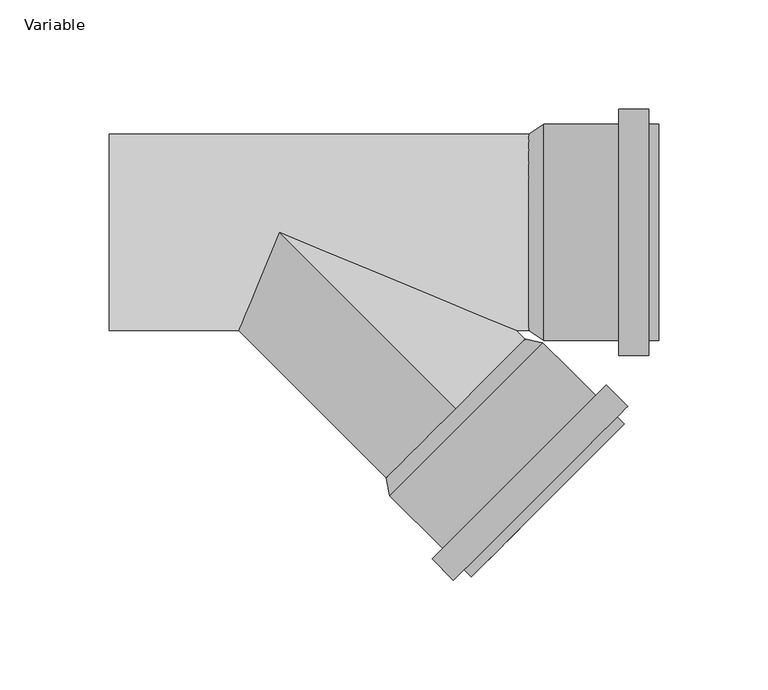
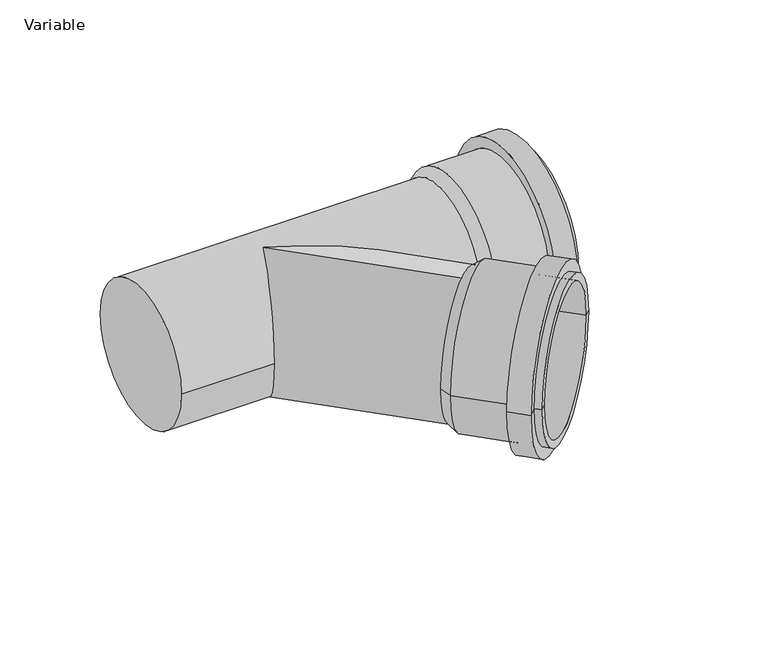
"""IFC4 building model written with IfcOpenShell, lengths in millimetres: pipe fitting geometry, AliaxisFR_Friaphon_Branch_FR : Variable."""

import ifcopenshell
import ifcopenshell.guid

model = None  # the IFC model being written
_history = None  # IfcOwnerHistory: only IFC2X3 demands one
_inside = {}  # id of a spatial element -> (the spatial element, [elements in it])
_under = {}  # id of a project, library or spatial element -> (it, [spatial elements below it])
_declared = {}  # id of a project -> (the project, [libraries it declares])
_typed = {}  # id of a type object -> (the type object, [elements of that type])
_made_of = {}  # id of a material, layer set ... -> (it, [elements and type objects made of it])


def new_model(schema):
    """Start an empty IFC model of exactly this schema.

    Asked for "IFC4X3", IfcOpenShell would pick the latest addendum, in which some entities
    have other attributes; the version numbers below select the first issue.
    IFC2X3 requires an IfcOwnerHistory on every rooted entity: one is made here for all.
    """
    global model, _history
    if schema == "IFC4X3":
        model = ifcopenshell.file(schema_version=(4, 3, 0, 0))
    else:
        model = ifcopenshell.file(schema=schema)
    _inside.clear()
    _under.clear()
    _declared.clear()
    _typed.clear()
    _made_of.clear()
    _history = None
    if model.schema == "IFC2X3":
        org = make("IfcOrganization", Name="unknown")
        user = make(
            "IfcPersonAndOrganization",
            ThePerson=make("IfcPerson", FamilyName="unknown"),
            TheOrganization=org,
        )
        app = make(
            "IfcApplication",
            ApplicationDeveloper=org,
            Version="unknown",
            ApplicationFullName="unknown",
            ApplicationIdentifier="unknown",
        )
        _history = make(
            "IfcOwnerHistory",
            OwningUser=user,
            OwningApplication=app,
            ChangeAction="ADDED",
            CreationDate=0,
        )
    return model


def make(cls, **values):
    """One entity of the class cls with the attributes given. An attribute that is None is left unset."""
    return model.create_entity(
        cls, **{name: value for name, value in values.items() if value is not None}
    )


def rooted(cls, **values):
    """An entity with a GlobalId (a new one), such as an element, a storey or a relation."""
    return make(cls, GlobalId=ifcopenshell.guid.new(), OwnerHistory=_history, **values)


def si_unit(unit_type, name, prefix=None):
    """IfcSIUnit, for example si_unit("LENGTHUNIT", "METRE", prefix="MILLI")."""
    return make("IfcSIUnit", UnitType=unit_type, Prefix=prefix, Name=name)


def assignment(units):
    """IfcUnitAssignment: the units of a project."""
    return None if units is None else make("IfcUnitAssignment", Units=units)


def point(xyz):
    """IfcCartesianPoint."""
    return None if xyz is None else make("IfcCartesianPoint", Coordinates=xyz)


def direction(xyz):
    """IfcDirection."""
    return None if xyz is None else make("IfcDirection", DirectionRatios=xyz)


def frame(location, z_axis=None, x_axis=None):
    """IfcAxis2Placement3D, a coordinate frame: its origin and axes. An axis left out is left unset."""
    return make(
        "IfcAxis2Placement3D",
        Location=point(location),
        Axis=direction(z_axis),
        RefDirection=direction(x_axis),
    )


def origin():
    """The frame at (0, 0, 0) with its axes left unset."""
    return frame((0.0, 0.0, 0.0))


def place(relative_to, where):
    """IfcLocalPlacement: puts the frame where relative to a parent placement (None: the world)."""
    return make(
        "IfcLocalPlacement", PlacementRelTo=relative_to, RelativePlacement=where
    )


def context(
    kind, dimensions, precision=None, world=None, true_north=None, identifier=None
):
    """IfcGeometricRepresentationContext, for example the 3D "Model" context."""
    return make(
        "IfcGeometricRepresentationContext",
        ContextIdentifier=identifier,
        ContextType=kind,
        CoordinateSpaceDimension=dimensions,
        Precision=precision,
        WorldCoordinateSystem=world,
        TrueNorth=true_north,
    )


def project(units=None, contexts=None):
    """IfcProject with its units and contexts."""
    return rooted(
        "IfcProject",
        Name="project",
        RepresentationContexts=contexts,
        UnitsInContext=assignment(units),
    )


def spatial(cls, under=None, at=None, **own):
    """A site, building, storey or space (cls), placed at a placement, below another one or the project."""
    s = rooted(cls, ObjectPlacement=at, **own)
    if under is not None:
        _under.setdefault(under.id(), (under, []))[1].append(s)
    return s


def polyline(points):
    """IfcPolyline through the points."""
    return make("IfcPolyline", Points=[point(p) for p in points])


def circle_curve(where, radius):
    """IfcCircle in the frame where."""
    return make("IfcCircle", Position=where, Radius=radius)


def ellipse_curve(where, semi_axis1, semi_axis2):
    """IfcEllipse in the frame where."""
    return make(
        "IfcEllipse", Position=where, SemiAxis1=semi_axis1, SemiAxis2=semi_axis2
    )


def shape(context_of_items, identifier, shape_type, items):
    """IfcShapeRepresentation: the items that make up one representation, for example the "Body"."""
    return make(
        "IfcShapeRepresentation",
        ContextOfItems=context_of_items,
        RepresentationIdentifier=identifier,
        RepresentationType=shape_type,
        Items=items,
    )


def source(mapping_origin, context_of_items, identifier, shape_type, items):
    """IfcRepresentationMap: a shape defined once, which mapped items show again and again."""
    return make(
        "IfcRepresentationMap",
        MappingOrigin=mapping_origin,
        MappedRepresentation=shape(context_of_items, identifier, shape_type, items),
    )


def transform(
    local_origin,
    x_axis=None,
    y_axis=None,
    z_axis=None,
    scale=None,
    scale2=None,
    scale3=None,
    uniform=True,
):
    """IfcCartesianTransformationOperator3D, or its non-uniform kind. x_axis, y_axis, z_axis: its Axis1, 2, 3."""
    if uniform:
        return make(
            "IfcCartesianTransformationOperator3D",
            Axis1=direction(x_axis),
            Axis2=direction(y_axis),
            LocalOrigin=point(local_origin),
            Scale=scale,
            Axis3=direction(z_axis),
        )
    return make(
        "IfcCartesianTransformationOperator3DnonUniform",
        Axis1=direction(x_axis),
        Axis2=direction(y_axis),
        LocalOrigin=point(local_origin),
        Scale=scale,
        Axis3=direction(z_axis),
        Scale2=scale2,
        Scale3=scale3,
    )


def mapped(mapping_source, mapping_target):
    """IfcMappedItem: shows the shape of a source again, moved by a transform."""
    return make(
        "IfcMappedItem", MappingSource=mapping_source, MappingTarget=mapping_target
    )


def made_of(thing, what):
    """Note that an element or type object is made of a material, layer set ...; save() writes the relation."""
    if what is not None:
        _made_of.setdefault(what.id(), (what, []))[1].append(thing)
    return thing


def element(
    cls,
    number,
    at=None,
    inside=None,
    cuts=None,
    type_object=None,
    material=None,
    context=None,
    identifier="Body",
    shape_type=None,
    held_by="IfcProductDefinitionShape",
    body=None,
    shapes=None,
    **own,
):
    """One element of the class cls, such as IfcWall. Its Tag is "e" and its number.

    at: its placement. inside: the storey or other place that contains it. cuts: it is an
    opening in that element (IfcRelVoidsElement). A single representation is given by context,
    identifier, shape_type and body (its items); several are given by shapes. held_by: the class
    of the entity that holds the representations. save() writes the other relations.
    """
    e = rooted(cls, Tag="e%d" % number, ObjectPlacement=at, **own)
    if body is not None:
        shapes = [shape(context, identifier, shape_type, body)]
    if shapes is not None:
        e.Representation = make(held_by, Representations=shapes)
    if inside is not None:
        _inside.setdefault(inside.id(), (inside, []))[1].append(e)
    if cuts is not None:
        rooted(
            "IfcRelVoidsElement", RelatingBuildingElement=cuts, RelatedOpeningElement=e
        )
    if type_object is not None:
        _typed.setdefault(type_object.id(), (type_object, []))[1].append(e)
    return made_of(e, material)


def aggregate(whole, parts):
    """IfcRelAggregates: a whole, such as a stair, and the parts it consists of."""
    return rooted("IfcRelAggregates", RelatingObject=whole, RelatedObjects=parts)


def save(model, path):
    """Write the relations noted so far, then the file.

    IfcRelAggregates (storeys below a building ...), IfcRelContainedInSpatialStructure (elements
    in a storey), IfcRelDefinesByType, IfcRelAssociatesMaterial and IfcRelDeclares: one each for
    every whole, place, type object, material and project.
    """
    for whole, parts in _under.values():
        aggregate(whole, parts)
    for where, things in _inside.values():
        rooted(
            "IfcRelContainedInSpatialStructure",
            RelatedElements=things,
            RelatingStructure=where,
        )
    for kind, things in _typed.values():
        rooted("IfcRelDefinesByType", RelatedObjects=things, RelatingType=kind)
    for what, things in _made_of.values():
        rooted("IfcRelAssociatesMaterial", RelatedObjects=things, RelatingMaterial=what)
    for by, libraries in _declared.values():
        rooted("IfcRelDeclares", RelatingContext=by, RelatedDefinitions=libraries)
    model.write(path)


def plane_surface(at):
    """IfcPlane: the flat surface through the origin of the frame at, square to its z axis."""
    return make("IfcPlane", Position=at)


def cylinder_surface(at, radius):
    """IfcCylindricalSurface: all points at the distance radius from the z axis of the frame at."""
    return make("IfcCylindricalSurface", Position=at, Radius=radius)


def revolved_surface(curve, axis_point, axis_direction):
    """IfcSurfaceOfRevolution: the curve turned about the line through axis_point along axis_direction."""
    return make(
        "IfcSurfaceOfRevolution",
        SweptCurve=make("IfcArbitraryOpenProfileDef", ProfileType="CURVE", Curve=curve),
        AxisPosition=make("IfcAxis1Placement", Location=point(axis_point), Axis=direction(axis_direction)),
    )


def advanced_brep(points, edges, surfaces, faces):
    """IfcAdvancedBrep: a solid bounded by faces that lie on surfaces and meet in shared edges.

    An edge is (start, end): straight between two places in points (the first is 0);
    or (start, end, curve); or (start, end, curve, False) where it runs against its curve.
    A face is (place in surfaces, loops), or (place, loops, False) where it looks against
    its surface's normal. A loop lists edges by number (the first is 1), with a minus sign
    where the edge is run from its end to its start. The first loop is the outer one.
    """
    corners = [point(p) for p in points]
    vertices = [make("IfcVertexPoint", VertexGeometry=c) for c in corners]
    made = []
    for start, end, *more in edges:
        made.append(
            make(
                "IfcEdgeCurve",
                EdgeStart=vertices[start],
                EdgeEnd=vertices[end],
                EdgeGeometry=more[0] if more else make("IfcPolyline", Points=[corners[start], corners[end]]),
                SameSense=more[1] if len(more) > 1 else True,
            )
        )
    hull = []
    for where, loops, *sense in faces:
        bounds = []
        for j, loop in enumerate(loops):
            ring = [make("IfcOrientedEdge", EdgeElement=made[abs(k) - 1], Orientation=k > 0) for k in loop]
            bounds.append(
                make(
                    "IfcFaceOuterBound" if j == 0 else "IfcFaceBound",
                    Bound=make("IfcEdgeLoop", EdgeList=ring),
                    Orientation=True,
                )
            )
        hull.append(make("IfcAdvancedFace", Bounds=bounds, FaceSurface=surfaces[where], SameSense=sense[0] if sense else True))
    return make("IfcAdvancedBrep", Outer=make("IfcClosedShell", CfsFaces=hull))


def variable_1fb8449a(model_context):
    return source(origin(), model_context, "Body", "AdvancedBrep", [
        advanced_brep(
        [(87.9640836, -158.1090763, 0.0), (158.1090763, -87.9640836, 0.0), (154.8563851, -91.2167748, 0.0), (91.2167748, -154.8563851, 0.0), (70.0035713, -149.9066376, 0.0), (149.9066376, -70.0035713, 0.0), (159.7354219, -79.8323556, 0.0), (79.8323556, -159.7354219, 0.0), (74.8826081, -145.0276008, 0.0), (145.0276008, -74.8826081, 0.0), (50.6995562, -120.8445489, 0.0), (120.8445489, -50.6995562, 0.0), (112.7128209, -49.0732106, 0.0), (49.0732106, -112.7128209, 0.0), (84.7113924, -154.8563851, 0.0), (154.8563851, -84.7113924, 0.0)],
        [
            (0, 1, circle_curve(frame((123.0365799, -123.0365799, 0.0), z_axis=(0.7071067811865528, -0.7071067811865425, 0.0), x_axis=(0.7071067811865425, 0.7071067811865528, 0.0)), 49.6)),
            (1, 2),
            (2, 3, circle_curve(frame((123.0365799, -123.0365799, 0.0), z_axis=(-0.7071067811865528, 0.7071067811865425, 0.0), x_axis=(0.7071067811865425, 0.7071067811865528, 0.0)), 45.0)),
            (3, 0),
            (1, 0, circle_curve(frame((123.0365799, -123.0365799, 0.0), z_axis=(0.7071067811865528, -0.7071067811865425, 0.0), x_axis=(0.7071067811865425, 0.7071067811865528, 0.0)), 49.6)),
            (3, 2, circle_curve(frame((123.0365799, -123.0365799, 0.0), z_axis=(-0.7071067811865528, 0.7071067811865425, 0.0), x_axis=(0.7071067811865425, 0.7071067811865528, 0.0)), 45.0)),
            (4, 5, circle_curve(frame((109.9551045, -109.9551045, 0.0), z_axis=(0.7071067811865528, -0.7071067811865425, 0.0), x_axis=(0.7071067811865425, 0.7071067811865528, 0.0)), 56.5)),
            (5, 6),
            (6, 7, circle_curve(frame((119.7838887, -119.7838887, 0.0), z_axis=(-0.7071067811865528, 0.7071067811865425, 0.0), x_axis=(0.7071067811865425, 0.7071067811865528, 0.0)), 56.5)),
            (7, 4),
            (5, 4, circle_curve(frame((109.9551045, -109.9551045, 0.0), z_axis=(0.7071067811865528, -0.7071067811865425, 0.0), x_axis=(0.7071067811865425, 0.7071067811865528, 0.0)), 56.5)),
            (7, 6, circle_curve(frame((119.7838887, -119.7838887, 0.0), z_axis=(-0.7071067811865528, 0.7071067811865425, 0.0), x_axis=(0.7071067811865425, 0.7071067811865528, 0.0)), 56.5)),
            (8, 9, circle_curve(frame((109.9551045, -109.9551045, 0.0), z_axis=(0.7071067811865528, -0.7071067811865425, 0.0), x_axis=(0.7071067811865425, 0.7071067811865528, 0.0)), 49.6)),
            (9, 5),
            (4, 8),
            (9, 8, circle_curve(frame((109.9551045, -109.9551045, 0.0), z_axis=(0.7071067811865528, -0.7071067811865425, 0.0), x_axis=(0.7071067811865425, 0.7071067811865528, 0.0)), 49.6)),
            (10, 11, circle_curve(frame((85.7720526, -85.7720526, 0.0), z_axis=(0.7071067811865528, -0.7071067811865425, 0.0), x_axis=(0.7071067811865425, 0.7071067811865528, 0.0)), 49.6)),
            (11, 9),
            (8, 10),
            (11, 10, circle_curve(frame((85.7720526, -85.7720526, 0.0), z_axis=(0.7071067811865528, -0.7071067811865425, 0.0), x_axis=(0.7071067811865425, 0.7071067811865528, 0.0)), 49.6)),
            (2, 12),
            (12, 13, circle_curve(frame((80.8930158, -80.8930158, 0.0), z_axis=(-0.7071067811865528, 0.7071067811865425, 0.0), x_axis=(0.7071067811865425, 0.7071067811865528, 0.0)), 45.0)),
            (13, 3),
            (13, 12, circle_curve(frame((80.8930158, -80.8930158, 0.0), z_axis=(-0.7071067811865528, 0.7071067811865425, 0.0), x_axis=(0.7071067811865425, 0.7071067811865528, 0.0)), 45.0)),
            (12, 11),
            (10, 13),
            (14, 15, circle_curve(frame((119.7838887, -119.7838887, 0.0), z_axis=(0.7071067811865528, -0.7071067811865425, 0.0), x_axis=(0.7071067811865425, 0.7071067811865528, 0.0)), 49.6)),
            (15, 1),
            (0, 14),
            (15, 14, circle_curve(frame((119.7838887, -119.7838887, 0.0), z_axis=(0.7071067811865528, -0.7071067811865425, 0.0), x_axis=(0.7071067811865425, 0.7071067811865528, 0.0)), 49.6)),
            (6, 15),
            (14, 7),
        ],
        [
            plane_surface(frame((123.0365799, -123.0365799, 0.0), z_axis=(0.7071067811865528, -0.7071067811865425, 0.0), x_axis=(0.7071067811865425, 0.7071067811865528, 0.0))),
            cylinder_surface(frame((80.8930158, -80.8930158, 0.0), z_axis=(-0.7071067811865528, 0.7071067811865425, 0.0), x_axis=(0.7071067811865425, 0.7071067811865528, 0.0)), 56.5),
            plane_surface(frame((109.9551045, -109.9551045, 0.0), z_axis=(-0.7071067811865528, 0.7071067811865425, 0.0), x_axis=(0.7071067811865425, 0.7071067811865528, 0.0))),
            cylinder_surface(frame((80.8930158, -80.8930158, 0.0), z_axis=(-0.7071067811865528, 0.7071067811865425, 0.0), x_axis=(0.7071067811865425, 0.7071067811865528, 0.0)), 49.6),
            revolved_surface(polyline([(112.71282090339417, -49.073210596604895, 0.0), (154.85638510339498, -91.21677479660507, 0.0)]), (80.8930158, -80.8930158, 0.0), (-0.7071067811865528, 0.7071067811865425, 0.0)),
            revolved_surface(polyline([(120.8445489, -50.6995562, 0.0), (112.7128209, -49.0732106, 0.0)]), (80.8930158, -80.8930158, 0.0), (-0.7071067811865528, 0.7071067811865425, 0.0)),
            plane_surface(frame((119.7838887, -119.7838887, 0.0), z_axis=(0.7071067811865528, -0.7071067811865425, 0.0), x_axis=(0.7071067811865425, 0.7071067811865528, 0.0))),
        ],
        [
            (0, [[1, 2, 3, 4]]),
            (0, [[5, -4, 6, -2]]),
            (1, [[7, 8, 9, 10]]),
            (1, [[11, -10, 12, -8]]),
            (2, [[13, 14, -7, 15]]),
            (2, [[16, -15, -11, -14]]),
            (3, [[17, 18, -13, 19]]),
            (3, [[20, -19, -16, -18]]),
            (4, [[-3, 21, 22, 23]]),
            (4, [[-6, -23, 24, -21]]),
            (5, [[-22, 25, -17, 26]]),
            (5, [[-24, -26, -20, -25]]),
            (3, [[27, 28, -1, 29]]),
            (3, [[30, -29, -5, -28]]),
            (6, [[-9, 31, -27, 32]]),
            (6, [[-12, -32, -30, -31]]),
        ],
    ),
        advanced_brep(
        [(174.0, -49.6, 0.0), (174.0, 49.6, 0.0), (174.0, 45.0, 0.0), (174.0, -45.0, 0.0), (155.5, -56.5, 0.0), (155.5, 56.5, 0.0), (169.4, 56.5, 0.0), (169.4, -56.5, 0.0), (155.5, -49.6, 0.0), (155.5, 49.6, 0.0), (121.3, -49.6, 0.0), (121.3, 49.6, 0.0), (114.4, 45.0, 0.0), (114.4, -45.0, 0.0), (169.4, -49.6, 0.0), (169.4, 49.6, 0.0)],
        [
            (0, 1, circle_curve(frame((174.0, 0.0, 0.0), z_axis=(1.0, 0.0, 0.0), x_axis=(0.0, 1.0, 0.0)), 49.6)),
            (1, 2),
            (2, 3, circle_curve(frame((174.0, 0.0, 0.0), z_axis=(-1.0, 0.0, 0.0), x_axis=(0.0, 1.0, 0.0)), 45.0)),
            (3, 0),
            (1, 0, circle_curve(frame((174.0, 0.0, 0.0), z_axis=(1.0, 0.0, 0.0), x_axis=(0.0, 1.0, 0.0)), 49.6)),
            (3, 2, circle_curve(frame((174.0, 0.0, 0.0), z_axis=(-1.0, 0.0, 0.0), x_axis=(0.0, 1.0, 0.0)), 45.0)),
            (4, 5, circle_curve(frame((155.5, 0.0, 0.0), z_axis=(1.0, 0.0, 0.0), x_axis=(0.0, 1.0, 0.0)), 56.5)),
            (5, 6),
            (6, 7, circle_curve(frame((169.4, 0.0, 0.0), z_axis=(-1.0, 0.0, 0.0), x_axis=(0.0, 1.0, 0.0)), 56.5)),
            (7, 4),
            (5, 4, circle_curve(frame((155.5, 0.0, 0.0), z_axis=(1.0, 0.0, 0.0), x_axis=(0.0, 1.0, 0.0)), 56.5)),
            (7, 6, circle_curve(frame((169.4, 0.0, 0.0), z_axis=(-1.0, 0.0, 0.0), x_axis=(0.0, 1.0, 0.0)), 56.5)),
            (8, 9, circle_curve(frame((155.5, 0.0, 0.0), z_axis=(1.0, 0.0, 0.0), x_axis=(0.0, 1.0, 0.0)), 49.6)),
            (9, 5),
            (4, 8),
            (9, 8, circle_curve(frame((155.5, 0.0, 0.0), z_axis=(1.0, 0.0, 0.0), x_axis=(0.0, 1.0, 0.0)), 49.6)),
            (10, 11, circle_curve(frame((121.3, 0.0, 0.0), z_axis=(1.0, 0.0, 0.0), x_axis=(0.0, 1.0, 0.0)), 49.6)),
            (11, 9),
            (8, 10),
            (11, 10, circle_curve(frame((121.3, 0.0, 0.0), z_axis=(1.0, 0.0, 0.0), x_axis=(0.0, 1.0, 0.0)), 49.6)),
            (2, 12),
            (12, 13, circle_curve(frame((114.4, 0.0, 0.0), z_axis=(-1.0, 0.0, 0.0), x_axis=(0.0, 1.0, 0.0)), 45.0)),
            (13, 3),
            (13, 12, circle_curve(frame((114.4, 0.0, 0.0), z_axis=(-1.0, 0.0, 0.0), x_axis=(0.0, 1.0, 0.0)), 45.0)),
            (12, 11),
            (10, 13),
            (14, 15, circle_curve(frame((169.4, 0.0, 0.0), z_axis=(1.0, 0.0, 0.0), x_axis=(0.0, 1.0, 0.0)), 49.6)),
            (15, 1),
            (0, 14),
            (15, 14, circle_curve(frame((169.4, 0.0, 0.0), z_axis=(1.0, 0.0, 0.0), x_axis=(0.0, 1.0, 0.0)), 49.6)),
            (6, 15),
            (14, 7),
        ],
        [
            plane_surface(frame((174.0, 0.0, 0.0), z_axis=(1.0, 0.0, 0.0), x_axis=(0.0, 1.0, 0.0))),
            cylinder_surface(frame((114.4, 0.0, 0.0), z_axis=(-1.0, 0.0, 0.0), x_axis=(0.0, 1.0, 0.0)), 56.5),
            plane_surface(frame((155.5, 0.0, 0.0), z_axis=(-1.0, 0.0, 0.0), x_axis=(0.0, 1.0, 0.0))),
            cylinder_surface(frame((114.4, 0.0, 0.0), z_axis=(-1.0, 0.0, 0.0), x_axis=(0.0, 1.0, 0.0)), 49.6),
            revolved_surface(polyline([(114.4, 45.0, 0.0), (174.0, 45.0, 0.0)]), (114.4, 0.0, 0.0), (-1.0, 0.0, 0.0)),
            revolved_surface(polyline([(121.3, 49.6, 0.0), (114.4, 45.0, 0.0)]), (114.4, 0.0, 0.0), (-1.0, 0.0, 0.0)),
            plane_surface(frame((169.4, 0.0, 0.0), z_axis=(1.0, 0.0, 0.0), x_axis=(0.0, 1.0, 0.0))),
        ],
        [
            (0, [[1, 2, 3, 4]]),
            (0, [[5, -4, 6, -2]]),
            (1, [[7, 8, 9, 10]]),
            (1, [[11, -10, 12, -8]]),
            (2, [[13, 14, -7, 15]]),
            (2, [[16, -15, -11, -14]]),
            (3, [[17, 18, -13, 19]]),
            (3, [[20, -19, -16, -18]]),
            (4, [[-3, 21, 22, 23]]),
            (4, [[-6, -23, 24, -21]]),
            (5, [[-22, 25, -17, 26]]),
            (5, [[-24, -26, -20, -25]]),
            (3, [[27, 28, -1, 29]]),
            (3, [[30, -29, -5, -28]]),
            (6, [[-9, 31, -27, 32]]),
            (6, [[-12, -32, -30, -31]]),
        ],
    ),
        advanced_brep(
        [(119.0, -45.0, 0.0), (119.0, 45.0, 0.0), (-78.0, -45.0, 0.0), (-78.0, 45.0, 0.0), (108.6396103, -45.0, 0.0), (0.0, 0.0, -45.0), (-18.6396103, -45.0, 0.0), (0.0, 0.0, 45.0), (84.145707, -84.145707, -45.0), (84.145707, -84.145707, 45.0)],
        [
            (0, 1, circle_curve(frame((119.0, 0.0, 0.0), z_axis=(1.0, 0.0, 0.0), x_axis=(0.0, 1.0, 0.0)), 45.0)),
            (1, 0, circle_curve(frame((119.0, 0.0, 0.0), z_axis=(1.0, 0.0, 0.0), x_axis=(0.0, 1.0, 0.0)), 45.0)),
            (2, 3, circle_curve(frame((-78.0, 0.0, 0.0), z_axis=(-1.0, 0.0, 0.0), x_axis=(0.0, 1.0, 0.0)), 45.0)),
            (3, 2, circle_curve(frame((-78.0, 0.0, 0.0), z_axis=(-1.0, 0.0, 0.0), x_axis=(0.0, 1.0, 0.0)), 45.0)),
            (0, 4),
            (4, 5, ellipse_curve(frame((0.0, 0.0, 0.0), z_axis=(0.3826834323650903, 0.9238795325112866, 0.0), x_axis=(0.9238795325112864, -0.3826834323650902, 0.0)), 117.5906668, 45.0)),
            (5, 6, ellipse_curve(frame((0.0, 0.0, 0.0), z_axis=(-0.9238795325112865, 0.3826834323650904, 0.0), x_axis=(0.3826834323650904, 0.9238795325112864, 0.0)), 48.707649, 45.0)),
            (6, 2),
            (3, 1),
            (6, 7, ellipse_curve(frame((0.0, 0.0, 0.0), z_axis=(-0.9238795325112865, 0.3826834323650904, 0.0), x_axis=(0.3826834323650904, 0.9238795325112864, 0.0)), 48.707649, 45.0)),
            (7, 4, ellipse_curve(frame((0.0, 0.0, 0.0), z_axis=(0.3826834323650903, 0.9238795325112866, 0.0), x_axis=(0.9238795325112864, -0.3826834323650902, 0.0)), 117.5906668, 45.0)),
            (8, 9, circle_curve(frame((84.145707, -84.145707, 0.0), z_axis=(0.7071067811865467, -0.7071067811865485, 0.0), x_axis=(0.0, 0.0, 1.0)), 45.0)),
            (9, 8, circle_curve(frame((84.145707, -84.145707, 0.0), z_axis=(0.7071067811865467, -0.7071067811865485, 0.0), x_axis=(0.0, 0.0, 1.0)), 45.0)),
            (8, 5),
            (7, 9),
        ],
        [
            plane_surface(frame((119.0, 45.0, 0.0), z_axis=(1.0, 0.0, 0.0), x_axis=(0.0, 0.0, 1.0))),
            plane_surface(frame((-78.0, 45.0, 0.0), z_axis=(-1.0, 0.0, 0.0), x_axis=(0.0, 0.0, -1.0))),
            cylinder_surface(frame((-78.0, 0.0, 0.0), z_axis=(1.0, 0.0, 0.0), x_axis=(0.0, 1.0, 0.0)), 45.0),
            plane_surface(frame((84.145707, -84.145707, 45.0), z_axis=(0.707106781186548, -0.707106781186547, 0.0), x_axis=(-0.707106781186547, -0.707106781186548, 0.0))),
            cylinder_surface(frame((84.145707, -84.145707, 0.0), z_axis=(-0.7071067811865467, 0.7071067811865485, 0.0), x_axis=(0.0, 0.0, 1.0)), 45.0),
        ],
        [
            (0, [[1, 2]]),
            (1, [[3, 4]]),
            (2, [[-1, 5, 6, 7, 8, -4, 9]]),
            (2, [[-2, -9, -3, -8, 10, 11, -5]]),
            (3, [[12, 13]]),
            (4, [[-12, 14, -6, -11, 15]]),
            (4, [[-13, -15, -10, -7, -14]]),
        ],
    ),
    ])


if __name__ == "__main__":
    model = new_model("IFC4")
    model_context = context("Model", 3, world=origin())
    ifc_project = project(units=[si_unit("LENGTHUNIT", "METRE", prefix="MILLI")], contexts=[model_context])
    site = spatial("IfcSite", under=ifc_project)
    building = spatial("IfcBuilding", under=site)
    placement = place(None, origin())
    variable_shape = variable_1fb8449a(model_context)
    element("IfcPipeFitting", 1, ObjectType="AliaxisFR_Friaphon_Branch_FR : Variable", at=placement, inside=building, context=model_context, shape_type="MappedRepresentation", body=[
        mapped(variable_shape, transform((0.0, 0.0, 0.0), x_axis=(1.0, 0.0, 0.0), y_axis=(0.0, 1.0, 0.0), z_axis=(0.0, 0.0, 1.0))),
    ])
    save(model, "model.ifc")
